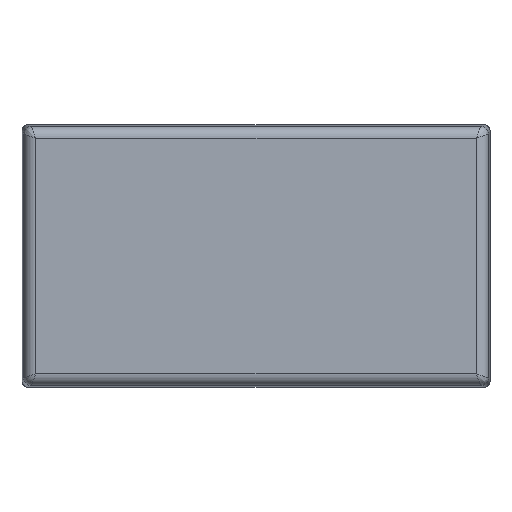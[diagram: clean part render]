
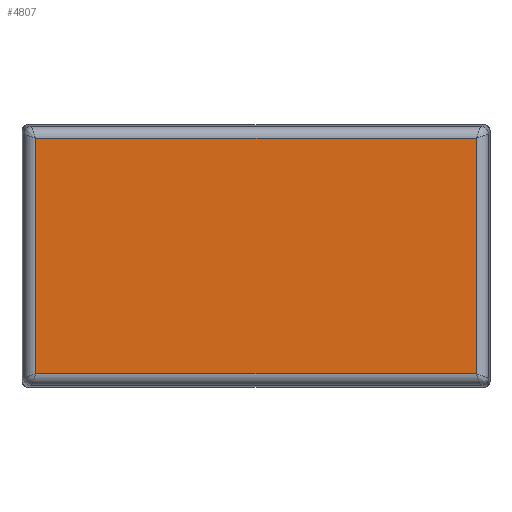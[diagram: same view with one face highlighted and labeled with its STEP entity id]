
A CAD part, front view. The second image highlights one B-rep face of the part: STEP entity #4807.
In plain terms, the highlighted planar face has unit normal (0, -1, 0).
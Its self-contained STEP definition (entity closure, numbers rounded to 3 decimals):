
#205 = VERTEX_POINT ( 'NONE', #570 ) ;
#570 = CARTESIAN_POINT ( 'NONE',  ( 58.905, 0., 31.455 ) ) ;
#658 = DIRECTION ( 'NONE',  ( -1., 0., 0. ) ) ;
#683 = CARTESIAN_POINT ( 'NONE',  ( 58.905, 0., -31.455 ) ) ;
#1012 = CARTESIAN_POINT ( 'NONE',  ( -58.905, 0., 31.455 ) ) ;
#1128 = DIRECTION ( 'NONE',  ( 0., 0., 1. ) ) ;
#1156 = EDGE_LOOP ( 'NONE', ( #3203, #3509, #3232, #3455 ) ) ;
#1334 = DIRECTION ( 'NONE',  ( 0., 1., 0. ) ) ;
#1399 = LINE ( 'NONE', #6652, #2650 ) ;
#2137 = VERTEX_POINT ( 'NONE', #683 ) ;
#2187 = CARTESIAN_POINT ( 'NONE',  ( 58.905, 0., 0. ) ) ;
#2263 = VERTEX_POINT ( 'NONE', #1012 ) ;
#2270 = CARTESIAN_POINT ( 'NONE',  ( 0., 0., 31.455 ) ) ;
#2483 = VECTOR ( 'NONE', #658, 1000. ) ;
#2609 = DIRECTION ( 'NONE',  ( 0., 0., -1. ) ) ;
#2650 = VECTOR ( 'NONE', #2862, 1000. ) ;
#2862 = DIRECTION ( 'NONE',  ( 1., 0., 0. ) ) ;
#2931 = PLANE ( 'NONE',  #4368 ) ;
#3203 = ORIENTED_EDGE ( 'NONE', *, *, #5957, .T. ) ;
#3232 = ORIENTED_EDGE ( 'NONE', *, *, #6634, .T. ) ;
#3455 = ORIENTED_EDGE ( 'NONE', *, *, #5180, .T. ) ;
#3480 = CARTESIAN_POINT ( 'NONE',  ( 0., 0., 0. ) ) ;
#3509 = ORIENTED_EDGE ( 'NONE', *, *, #5748, .T. ) ;
#3676 = VECTOR ( 'NONE', #2609, 1000. ) ;
#3929 = LINE ( 'NONE', #2270, #2483 ) ;
#4189 = FACE_OUTER_BOUND ( 'NONE', #1156, .T. ) ;
#4368 = AXIS2_PLACEMENT_3D ( 'NONE', #3480, #1334, #5108 ) ;
#4684 = VECTOR ( 'NONE', #1128, 1000. ) ;
#4807 = ADVANCED_FACE ( 'NONE', ( #4189 ), #2931, .F. ) ;
#4824 = CARTESIAN_POINT ( 'NONE',  ( -58.905, 0., -31.455 ) ) ;
#5108 = DIRECTION ( 'NONE',  ( 0., 0., 1. ) ) ;
#5180 = EDGE_CURVE ( 'NONE', #2137, #205, #6148, .T. ) ;
#5269 = LINE ( 'NONE', #5296, #3676 ) ;
#5296 = CARTESIAN_POINT ( 'NONE',  ( -58.905, 0., 0. ) ) ;
#5748 = EDGE_CURVE ( 'NONE', #2263, #5822, #5269, .T. ) ;
#5822 = VERTEX_POINT ( 'NONE', #4824 ) ;
#5957 = EDGE_CURVE ( 'NONE', #205, #2263, #3929, .T. ) ;
#6148 = LINE ( 'NONE', #2187, #4684 ) ;
#6634 = EDGE_CURVE ( 'NONE', #5822, #2137, #1399, .T. ) ;
#6652 = CARTESIAN_POINT ( 'NONE',  ( 0., 0., -31.455 ) ) ;
